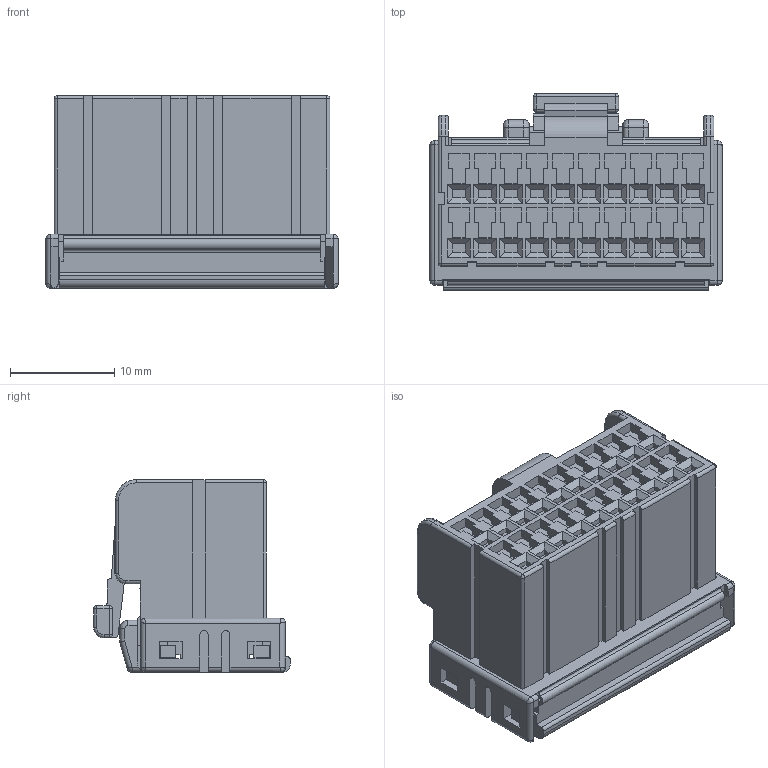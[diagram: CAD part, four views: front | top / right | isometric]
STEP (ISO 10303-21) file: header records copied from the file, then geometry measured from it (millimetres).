
FILE_DESCRIPTION((''),'2;1');
FILE_NAME('C-174047-2','2012-08-21T',('workeradm'),('Tyco Electronics Ltd.'),'PRO/ENGINEER BY PARAMETRIC TECHNOLOGY CORPORATION, 2010430','PRO/ENGINEER BY PARAMETRIC TECHNOLOGY CORPORATION, 2010430','');
FILE_SCHEMA(('AUTOMOTIVE_DESIGN { 1 0 10303 214 1 1 1 1 }'));
Length unit declared in the file: millimetre
Products named in the file (1): C-174047-2
Bounding box: 28.1 x 18.9 x 18.5 mm (x, y, z)
Volume: 5970.7 mm3; surface area: 3643.6 mm2
Topology: 1 solids, 1 shells, 776 faces, 2038 edges, 1294 vertices
Faces by surface type: plane 631, cylinder 109, sphere 14, bspline 12, torus 10
Entity records: 24176 total; most frequent: CARTESIAN_POINT 4779, ORIENTED_EDGE 4076, DIRECTION 3734, EDGE_CURVE 2038, VECTOR 1798, LINE 1798, VERTEX_POINT 1294, AXIS2_PLACEMENT_3D 968
